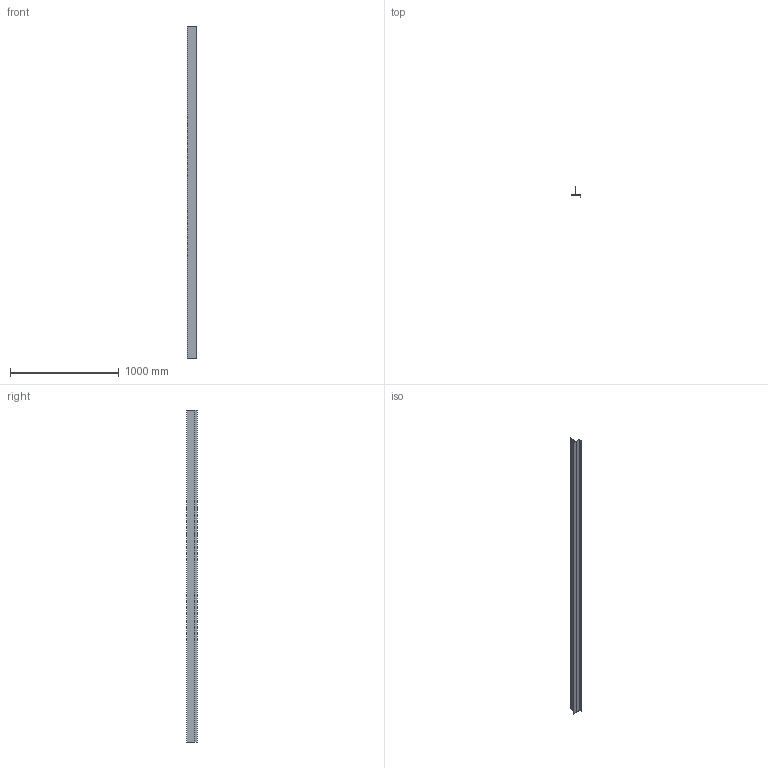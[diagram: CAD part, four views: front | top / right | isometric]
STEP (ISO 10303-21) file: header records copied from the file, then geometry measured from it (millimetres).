
FILE_DESCRIPTION (( 'STEP AP203' ), '1' );
FILE_NAME ('M57A.STEP', '2018-06-16T00:48:13', ( 'Michael Moliner' ), ( '' ), 'SwSTEP 2.0', 'SolidWorks 2018', '' );
FILE_SCHEMA (( 'CONFIG_CONTROL_DESIGN' ));
Length unit declared in the file: inch
Products named in the file (2): M57A
Bounding box: 86.23 x 100.94 x 3048 mm (x, y, z)
Volume: 396569.6 mm3; surface area: 1564488.5 mm2
Topology: 1 solids, 1 shells, 21 faces, 57 edges, 38 vertices
Faces by surface type: plane 14, cylinder 7
Entity records: 822 total; most frequent: CARTESIAN_POINT 118, DIRECTION 117, ORIENTED_EDGE 114, EDGE_CURVE 57, LINE 43, VECTOR 43, VERTEX_POINT 38, AXIS2_PLACEMENT_3D 37
